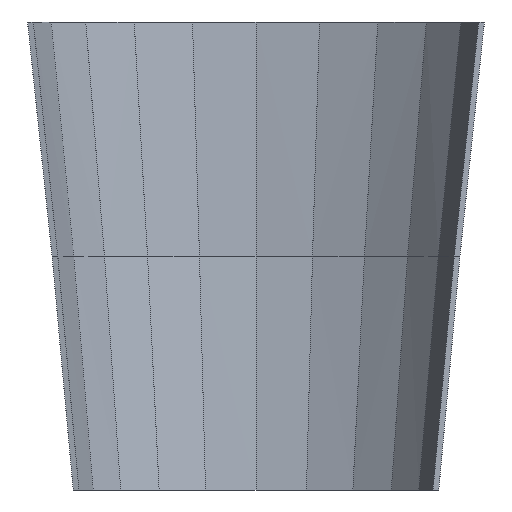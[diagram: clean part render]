
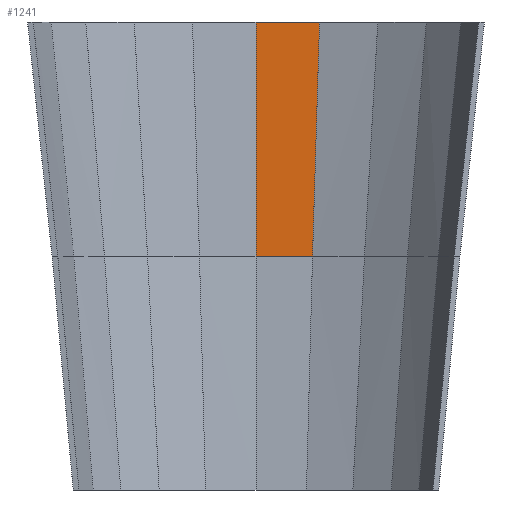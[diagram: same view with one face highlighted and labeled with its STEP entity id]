
A CAD part, front view. The second image highlights one B-rep face of the part: STEP entity #1241.
In plain terms, the highlighted free-form (B-spline) face has degree [1, 1] with [2, 2] control points.
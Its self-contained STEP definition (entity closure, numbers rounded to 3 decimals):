
#44 = PLANE('',#45);
#45 = AXIS2_PLACEMENT_3D('',#46,#47,#48);
#46 = CARTESIAN_POINT('',(-98.638,13.917,-82.));
#47 = DIRECTION('',(-0.,0.,1.));
#48 = DIRECTION('',(1.,0.,0.));
#1125 = B_SPLINE_SURFACE_WITH_KNOTS('',1,1,(
    (#1126,#1127)
    ,(#1128,#1129
    )),.UNSPECIFIED.,.F.,.F.,.F.,(2,2),(2,2),(0.,37.212),(0.,1.)
  ,.PIECEWISE_BEZIER_KNOTS.);
#1126 = CARTESIAN_POINT('',(113.943,81.115,-82.));
#1127 = CARTESIAN_POINT('',(105.818,76.912,-224.));
#1128 = CARTESIAN_POINT('',(78.54,92.574,-82.));
#1129 = CARTESIAN_POINT('',(74.304,87.777,-224.));
#1167 = VERTEX_POINT('',#1168);
#1168 = CARTESIAN_POINT('',(78.54,92.574,-82.));
#1189 = EDGE_CURVE('',#1167,#1190,#1192,.T.);
#1190 = VERTEX_POINT('',#1191);
#1191 = CARTESIAN_POINT('',(74.304,87.777,-224.));
#1192 = SURFACE_CURVE('',#1193,(#1196,#1203),.PCURVE_S1.);
#1193 = B_SPLINE_CURVE_WITH_KNOTS('',1,(#1194,#1195),.UNSPECIFIED.,.F.,
  .F.,(2,2),(0.,1.),.PIECEWISE_BEZIER_KNOTS.);
#1194 = CARTESIAN_POINT('',(78.54,92.574,-82.));
#1195 = CARTESIAN_POINT('',(74.304,87.777,-224.));
#1196 = PCURVE('',#1125,#1197);
#1197 = DEFINITIONAL_REPRESENTATION('',(#1198),#1202);
#1198 = LINE('',#1199,#1200);
#1199 = CARTESIAN_POINT('',(37.212,0.));
#1200 = VECTOR('',#1201,1.);
#1201 = DIRECTION('',(0.,1.));
#1202 = ( GEOMETRIC_REPRESENTATION_CONTEXT(2) 
PARAMETRIC_REPRESENTATION_CONTEXT() REPRESENTATION_CONTEXT('2D SPACE',''
  ) );
#1203 = PCURVE('',#1204,#1209);
#1204 = B_SPLINE_SURFACE_WITH_KNOTS('',1,1,(
    (#1205,#1206)
    ,(#1207,#1208
    )),.UNSPECIFIED.,.F.,.F.,.F.,(2,2),(2,2),(0.,38.739),(0.,1.
    ),.PIECEWISE_BEZIER_KNOTS.);
#1205 = CARTESIAN_POINT('',(78.54,92.574,-82.));
#1206 = CARTESIAN_POINT('',(74.304,87.777,-224.));
#1207 = CARTESIAN_POINT('',(40.,96.5,-82.));
#1208 = CARTESIAN_POINT('',(40.,91.5,-224.));
#1209 = DEFINITIONAL_REPRESENTATION('',(#1210),#1214);
#1210 = LINE('',#1211,#1212);
#1211 = CARTESIAN_POINT('',(0.,0.));
#1212 = VECTOR('',#1213,1.);
#1213 = DIRECTION('',(0.,1.));
#1214 = ( GEOMETRIC_REPRESENTATION_CONTEXT(2) 
PARAMETRIC_REPRESENTATION_CONTEXT() REPRESENTATION_CONTEXT('2D SPACE',''
  ) );
#1241 = ADVANCED_FACE('',(#1242),#1204,.T.);
#1242 = FACE_BOUND('',#1243,.T.);
#1243 = EDGE_LOOP('',(#1244,#1267,#1294,#1319));
#1244 = ORIENTED_EDGE('',*,*,#1245,.T.);
#1245 = EDGE_CURVE('',#1167,#1246,#1248,.T.);
#1246 = VERTEX_POINT('',#1247);
#1247 = CARTESIAN_POINT('',(40.,96.5,-82.));
#1248 = SURFACE_CURVE('',#1249,(#1253,#1260),.PCURVE_S1.);
#1249 = LINE('',#1250,#1251);
#1250 = CARTESIAN_POINT('',(78.54,92.574,-82.));
#1251 = VECTOR('',#1252,1.);
#1252 = DIRECTION('',(-0.995,0.101,0.));
#1253 = PCURVE('',#1204,#1254);
#1254 = DEFINITIONAL_REPRESENTATION('',(#1255),#1259);
#1255 = LINE('',#1256,#1257);
#1256 = CARTESIAN_POINT('',(0.,0.));
#1257 = VECTOR('',#1258,1.);
#1258 = DIRECTION('',(1.,0.));
#1259 = ( GEOMETRIC_REPRESENTATION_CONTEXT(2) 
PARAMETRIC_REPRESENTATION_CONTEXT() REPRESENTATION_CONTEXT('2D SPACE',''
  ) );
#1260 = PCURVE('',#44,#1261);
#1261 = DEFINITIONAL_REPRESENTATION('',(#1262),#1266);
#1262 = LINE('',#1263,#1264);
#1263 = CARTESIAN_POINT('',(177.177,78.656));
#1264 = VECTOR('',#1265,1.);
#1265 = DIRECTION('',(-0.995,0.101));
#1266 = ( GEOMETRIC_REPRESENTATION_CONTEXT(2) 
PARAMETRIC_REPRESENTATION_CONTEXT() REPRESENTATION_CONTEXT('2D SPACE',''
  ) );
#1267 = ORIENTED_EDGE('',*,*,#1268,.T.);
#1268 = EDGE_CURVE('',#1246,#1269,#1271,.T.);
#1269 = VERTEX_POINT('',#1270);
#1270 = CARTESIAN_POINT('',(40.,91.5,-224.));
#1271 = SURFACE_CURVE('',#1272,(#1275,#1282),.PCURVE_S1.);
#1272 = B_SPLINE_CURVE_WITH_KNOTS('',1,(#1273,#1274),.UNSPECIFIED.,.F.,
  .F.,(2,2),(0.,1.),.PIECEWISE_BEZIER_KNOTS.);
#1273 = CARTESIAN_POINT('',(40.,96.5,-82.));
#1274 = CARTESIAN_POINT('',(40.,91.5,-224.));
#1275 = PCURVE('',#1204,#1276);
#1276 = DEFINITIONAL_REPRESENTATION('',(#1277),#1281);
#1277 = LINE('',#1278,#1279);
#1278 = CARTESIAN_POINT('',(38.739,0.));
#1279 = VECTOR('',#1280,1.);
#1280 = DIRECTION('',(0.,1.));
#1281 = ( GEOMETRIC_REPRESENTATION_CONTEXT(2) 
PARAMETRIC_REPRESENTATION_CONTEXT() REPRESENTATION_CONTEXT('2D SPACE',''
  ) );
#1282 = PCURVE('',#1283,#1288);
#1283 = B_SPLINE_SURFACE_WITH_KNOTS('',1,1,(
    (#1284,#1285)
    ,(#1286,#1287
    )),.UNSPECIFIED.,.F.,.F.,.F.,(2,2),(2,2),(0.,38.739),(0.,1.
    ),.PIECEWISE_BEZIER_KNOTS.);
#1284 = CARTESIAN_POINT('',(40.,96.5,-82.));
#1285 = CARTESIAN_POINT('',(40.,91.5,-224.));
#1286 = CARTESIAN_POINT('',(1.46,92.574,-82.));
#1287 = CARTESIAN_POINT('',(5.696,87.777,-224.));
#1288 = DEFINITIONAL_REPRESENTATION('',(#1289),#1293);
#1289 = LINE('',#1290,#1291);
#1290 = CARTESIAN_POINT('',(0.,0.));
#1291 = VECTOR('',#1292,1.);
#1292 = DIRECTION('',(0.,1.));
#1293 = ( GEOMETRIC_REPRESENTATION_CONTEXT(2) 
PARAMETRIC_REPRESENTATION_CONTEXT() REPRESENTATION_CONTEXT('2D SPACE',''
  ) );
#1294 = ORIENTED_EDGE('',*,*,#1295,.F.);
#1295 = EDGE_CURVE('',#1190,#1269,#1296,.T.);
#1296 = SURFACE_CURVE('',#1297,(#1301,#1307),.PCURVE_S1.);
#1297 = LINE('',#1298,#1299);
#1298 = CARTESIAN_POINT('',(74.304,87.777,-224.));
#1299 = VECTOR('',#1300,1.);
#1300 = DIRECTION('',(-0.994,0.108,0.));
#1301 = PCURVE('',#1204,#1302);
#1302 = DEFINITIONAL_REPRESENTATION('',(#1303),#1306);
#1303 = B_SPLINE_CURVE_WITH_KNOTS('',1,(#1304,#1305),.UNSPECIFIED.,.F.,
  .F.,(2,2),(0.,34.506),.PIECEWISE_BEZIER_KNOTS.);
#1304 = CARTESIAN_POINT('',(0.,1.));
#1305 = CARTESIAN_POINT('',(38.739,1.));
#1306 = ( GEOMETRIC_REPRESENTATION_CONTEXT(2) 
PARAMETRIC_REPRESENTATION_CONTEXT() REPRESENTATION_CONTEXT('2D SPACE',''
  ) );
#1307 = PCURVE('',#1308,#1313);
#1308 = B_SPLINE_SURFACE_WITH_KNOTS('',1,1,(
    (#1309,#1310)
    ,(#1311,#1312
    )),.UNSPECIFIED.,.F.,.F.,.F.,(2,2),(2,2),(0.,34.506),(0.,1.
    ),.PIECEWISE_BEZIER_KNOTS.);
#1309 = CARTESIAN_POINT('',(74.304,87.777,-224.));
#1310 = CARTESIAN_POINT('',(70.634,75.306,-366.));
#1311 = CARTESIAN_POINT('',(40.,91.5,-224.));
#1312 = CARTESIAN_POINT('',(40.,78.5,-366.));
#1313 = DEFINITIONAL_REPRESENTATION('',(#1314),#1318);
#1314 = LINE('',#1315,#1316);
#1315 = CARTESIAN_POINT('',(0.,0.));
#1316 = VECTOR('',#1317,1.);
#1317 = DIRECTION('',(1.,0.));
#1318 = ( GEOMETRIC_REPRESENTATION_CONTEXT(2) 
PARAMETRIC_REPRESENTATION_CONTEXT() REPRESENTATION_CONTEXT('2D SPACE',''
  ) );
#1319 = ORIENTED_EDGE('',*,*,#1189,.F.);
